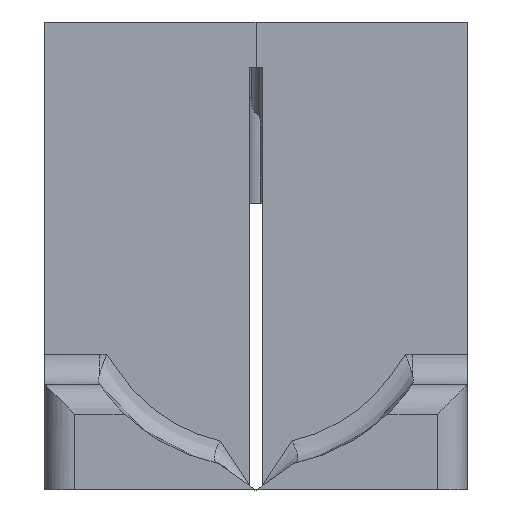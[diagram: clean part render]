
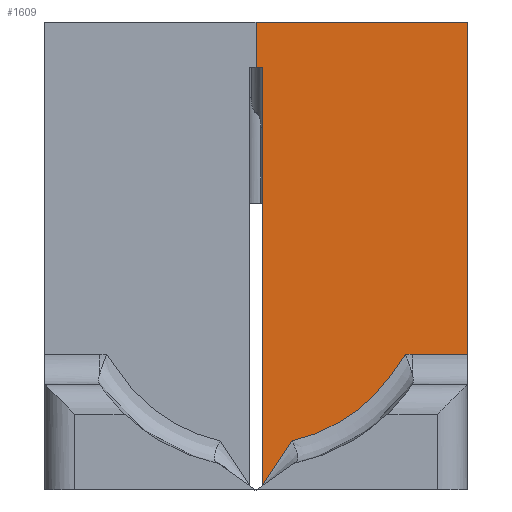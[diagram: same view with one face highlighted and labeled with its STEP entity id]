
A CAD part, left-side view. The second image highlights one B-rep face of the part: STEP entity #1609.
In plain terms, the highlighted planar face has unit normal (-1, 0, 0).
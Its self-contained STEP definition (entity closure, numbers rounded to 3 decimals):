
#33 = LINE ( 'NONE', #3024, #215 ) ;
#97 = CARTESIAN_POINT ( 'NONE',  ( -35., -3.163, -27.536 ) ) ;
#106 = VECTOR ( 'NONE', #3444, 1000. ) ;
#121 = CARTESIAN_POINT ( 'NONE',  ( -35., -8.42, -24.078 ) ) ;
#168 = CARTESIAN_POINT ( 'NONE',  ( -35., -9.897, -22. ) ) ;
#215 = VECTOR ( 'NONE', #2446, 1000. ) ;
#266 = VECTOR ( 'NONE', #1642, 1000. ) ;
#267 = CARTESIAN_POINT ( 'NONE',  ( -35., -0.4, -30.72 ) ) ;
#326 = ORIENTED_EDGE ( 'NONE', *, *, #2898, .T. ) ;
#342 = VERTEX_POINT ( 'NONE', #457 ) ;
#386 = VERTEX_POINT ( 'NONE', #4176 ) ;
#426 = CARTESIAN_POINT ( 'NONE',  ( -35., -9.172, -23.073 ) ) ;
#457 = CARTESIAN_POINT ( 'NONE',  ( -35., -0.4, -3. ) ) ;
#549 = CARTESIAN_POINT ( 'NONE',  ( -35., 0., -15.36 ) ) ;
#555 = DIRECTION ( 'NONE',  ( 0., 0., 1. ) ) ;
#636 = CARTESIAN_POINT ( 'NONE',  ( -35., -3.454, -27.444 ) ) ;
#658 = CARTESIAN_POINT ( 'NONE',  ( -35., -8.615, -23.841 ) ) ;
#857 = VECTOR ( 'NONE', #3285, 1000. ) ;
#972 = CARTESIAN_POINT ( 'NONE',  ( -35., -9.658, -22.356 ) ) ;
#998 = VERTEX_POINT ( 'NONE', #267 ) ;
#1003 = VERTEX_POINT ( 'NONE', #1267 ) ;
#1041 = DIRECTION ( 'NONE',  ( 0., -1., 0. ) ) ;
#1167 = CARTESIAN_POINT ( 'NONE',  ( -35., -4.301, -27.132 ) ) ;
#1195 = CARTESIAN_POINT ( 'NONE',  ( -35., -8.775, -23.634 ) ) ;
#1242 = CARTESIAN_POINT ( 'NONE',  ( -35., 0., -3. ) ) ;
#1249 = EDGE_CURVE ( 'NONE', #342, #998, #1517, .T. ) ;
#1261 = CARTESIAN_POINT ( 'NONE',  ( -35., -14., -30.72 ) ) ;
#1267 = CARTESIAN_POINT ( 'NONE',  ( -35., -14., -22. ) ) ;
#1393 = EDGE_CURVE ( 'NONE', #3005, #1003, #6241, .T. ) ;
#1517 = LINE ( 'NONE', #4639, #106 ) ;
#1609 = ADVANCED_FACE ( 'NONE', ( #3243 ), #2223, .T. ) ;
#1642 = DIRECTION ( 'NONE',  ( 0., -1., 0. ) ) ;
#1698 = CARTESIAN_POINT ( 'NONE',  ( -35., -6.082, -26.201 ) ) ;
#1723 = CARTESIAN_POINT ( 'NONE',  ( -35., -8.812, -23.585 ) ) ;
#2055 = EDGE_CURVE ( 'NONE', #5046, #4791, #4306, .T. ) ;
#2174 = EDGE_CURVE ( 'NONE', #342, #2991, #4867, .T. ) ;
#2202 = CARTESIAN_POINT ( 'NONE',  ( -35., -2.815, -27.634 ) ) ;
#2223 = PLANE ( 'NONE',  #4177 ) ;
#2226 = CARTESIAN_POINT ( 'NONE',  ( -35., -7.496, -25.068 ) ) ;
#2231 = CARTESIAN_POINT ( 'NONE',  ( -35., -0.4, -30.72 ) ) ;
#2253 = CARTESIAN_POINT ( 'NONE',  ( -35., -8.823, -23.569 ) ) ;
#2446 = DIRECTION ( 'NONE',  ( 0., 1., 0. ) ) ;
#2720 = CARTESIAN_POINT ( 'NONE',  ( -35., -2.929, -27.603 ) ) ;
#2740 = CARTESIAN_POINT ( 'NONE',  ( -35., -0.2, -3. ) ) ;
#2749 = CARTESIAN_POINT ( 'NONE',  ( -35., -8.224, -24.306 ) ) ;
#2779 = CARTESIAN_POINT ( 'NONE',  ( -35., -8.95, -23.395 ) ) ;
#2835 = ORIENTED_EDGE ( 'NONE', *, *, #5249, .T. ) ;
#2889 = B_SPLINE_CURVE_WITH_KNOTS ( 'NONE', 3,
 ( #2231, #5929, #6432, #3350 ),
 .UNSPECIFIED., .F., .F.,
 ( 4, 4 ),
 ( 0., 1. ),
 .UNSPECIFIED. ) ;
#2898 = EDGE_CURVE ( 'NONE', #998, #386, #2889, .T. ) ;
#2915 = ORIENTED_EDGE ( 'NONE', *, *, #3425, .T. ) ;
#2967 = VECTOR ( 'NONE', #4751, 1000. ) ;
#2991 = VERTEX_POINT ( 'NONE', #1242 ) ;
#3005 = VERTEX_POINT ( 'NONE', #5482 ) ;
#3024 = CARTESIAN_POINT ( 'NONE',  ( -35., -9.897, -22. ) ) ;
#3071 = CARTESIAN_POINT ( 'NONE',  ( -35., -9.146, -23.112 ) ) ;
#3193 = CARTESIAN_POINT ( 'NONE',  ( -35., -14., -15.36 ) ) ;
#3243 = FACE_OUTER_BOUND ( 'NONE', #6215, .T. ) ;
#3267 = CARTESIAN_POINT ( 'NONE',  ( -35., -3.068, -27.564 ) ) ;
#3285 = DIRECTION ( 'NONE',  ( 0., 1., 0. ) ) ;
#3294 = CARTESIAN_POINT ( 'NONE',  ( -35., -8.388, -24.116 ) ) ;
#3350 = CARTESIAN_POINT ( 'NONE',  ( -35., -2.393, -27.736 ) ) ;
#3425 = EDGE_CURVE ( 'NONE', #5046, #2991, #4364, .T. ) ;
#3444 = DIRECTION ( 'NONE',  ( 0., 0., -1. ) ) ;
#3506 = ORIENTED_EDGE ( 'NONE', *, *, #3860, .T. ) ;
#3582 = ORIENTED_EDGE ( 'NONE', *, *, #5507, .F. ) ;
#3603 = CARTESIAN_POINT ( 'NONE',  ( -35., -9.167, -23.08 ) ) ;
#3775 = CARTESIAN_POINT ( 'NONE',  ( -35., -2.498, -27.712 ) ) ;
#3796 = DIRECTION ( 'NONE',  ( 0., 0., 1. ) ) ;
#3798 = CARTESIAN_POINT ( 'NONE',  ( -35., -3.355, -27.476 ) ) ;
#3828 = CARTESIAN_POINT ( 'NONE',  ( -35., -8.519, -23.959 ) ) ;
#3860 = EDGE_CURVE ( 'NONE', #386, #6080, #6113, .T. ) ;
#4125 = CARTESIAN_POINT ( 'NONE',  ( -35., -9.417, -22.712 ) ) ;
#4176 = CARTESIAN_POINT ( 'NONE',  ( -35., -2.393, -27.736 ) ) ;
#4177 = AXIS2_PLACEMENT_3D ( 'NONE', #1261, #5358, #3796 ) ;
#4214 = ORIENTED_EDGE ( 'NONE', *, *, #1249, .T. ) ;
#4295 = CARTESIAN_POINT ( 'NONE',  ( -35., -2.393, -27.736 ) ) ;
#4306 = LINE ( 'NONE', #4778, #266 ) ;
#4326 = CARTESIAN_POINT ( 'NONE',  ( -35., -3.93, -27.282 ) ) ;
#4352 = CARTESIAN_POINT ( 'NONE',  ( -35., -8.723, -23.703 ) ) ;
#4364 = LINE ( 'NONE', #549, #2967 ) ;
#4639 = CARTESIAN_POINT ( 'NONE',  ( -35., -0.4, -15.36 ) ) ;
#4647 = CARTESIAN_POINT ( 'NONE',  ( -35., -9.897, -22. ) ) ;
#4730 = VECTOR ( 'NONE', #555, 1000. ) ;
#4751 = DIRECTION ( 'NONE',  ( 0., 0., -1. ) ) ;
#4778 = CARTESIAN_POINT ( 'NONE',  ( -35., -0.061, 0. ) ) ;
#4791 = VERTEX_POINT ( 'NONE', #6639 ) ;
#4814 = ORIENTED_EDGE ( 'NONE', *, *, #2055, .F. ) ;
#4832 = CARTESIAN_POINT ( 'NONE',  ( -35., -5.397, -26.619 ) ) ;
#4857 = CARTESIAN_POINT ( 'NONE',  ( -35., -8.801, -23.599 ) ) ;
#4867 = LINE ( 'NONE', #2740, #857 ) ;
#4901 = LINE ( 'NONE', #3193, #4730 ) ;
#4965 = ORIENTED_EDGE ( 'NONE', *, *, #1393, .T. ) ;
#5046 = VERTEX_POINT ( 'NONE', #5310 ) ;
#5249 = EDGE_CURVE ( 'NONE', #1003, #4791, #4901, .T. ) ;
#5310 = CARTESIAN_POINT ( 'NONE',  ( -35., 0., 0. ) ) ;
#5335 = CARTESIAN_POINT ( 'NONE',  ( -35., -2.65, -27.676 ) ) ;
#5358 = DIRECTION ( 'NONE',  ( -1., 0., 0. ) ) ;
#5363 = CARTESIAN_POINT ( 'NONE',  ( -35., -7.04, -25.462 ) ) ;
#5379 = CARTESIAN_POINT ( 'NONE',  ( -35., -8.819, -23.575 ) ) ;
#5482 = CARTESIAN_POINT ( 'NONE',  ( -35., -10.356, -22. ) ) ;
#5507 = EDGE_CURVE ( 'NONE', #3005, #6080, #33, .T. ) ;
#5843 = CARTESIAN_POINT ( 'NONE',  ( -35., -2.884, -27.615 ) ) ;
#5874 = CARTESIAN_POINT ( 'NONE',  ( -35., -7.988, -24.567 ) ) ;
#5897 = CARTESIAN_POINT ( 'NONE',  ( -35., -8.872, -23.503 ) ) ;
#5929 = CARTESIAN_POINT ( 'NONE',  ( -35., -1.064, -29.725 ) ) ;
#6080 = VERTEX_POINT ( 'NONE', #168 ) ;
#6086 = VECTOR ( 'NONE', #1041, 1000. ) ;
#6113 = B_SPLINE_CURVE_WITH_KNOTS ( 'NONE', 3,
 ( #4295, #3775, #5335, #2202, #5843, #2720, #6357, #3267, #97, #3798, #636, #4326, #1167, #4832, #1698, #5363, #2226, #5874, #2749, #6379, #3294, #121, #3828, #658, #4352, #1195, #4857, #1723, #5379, #2253, #5897, #2779, #6407, #6167, #3071, #6686, #3603, #426, #4125, #972, #4647 ),
 .UNSPECIFIED., .F., .F.,
 ( 4, 1, 1, 2, 2, 2, 2, 2, 2, 1, 1, 1, 2, 2, 1, 1, 1, 1, 2, 2, 1, 1, 1, 1, 2, 2, 4 ),
 ( 0., 0.031, 0.047, 0.055, 0.063, 0.094, 0.125, 0.25, 0.5, 0.625, 0.688, 0.719, 0.734, 0.75, 0.781, 0.797, 0.805, 0.809, 0.811, 0.813, 0.844, 0.859, 0.867, 0.871, 0.873, 0.875, 1. ),
 .UNSPECIFIED. ) ;
#6167 = CARTESIAN_POINT ( 'NONE',  ( -35., -9.116, -23.156 ) ) ;
#6215 = EDGE_LOOP ( 'NONE', ( #6537, #4214, #326, #3506, #3582, #4965, #2835, #4814, #2915 ) ) ;
#6241 = LINE ( 'NONE', #6260, #6086 ) ;
#6260 = CARTESIAN_POINT ( 'NONE',  ( -35., -7., -22. ) ) ;
#6357 = CARTESIAN_POINT ( 'NONE',  ( -35., -2.949, -27.597 ) ) ;
#6379 = CARTESIAN_POINT ( 'NONE',  ( -35., -8.323, -24.192 ) ) ;
#6407 = CARTESIAN_POINT ( 'NONE',  ( -35., -9.058, -23.24 ) ) ;
#6432 = CARTESIAN_POINT ( 'NONE',  ( -35., -1.728, -28.73 ) ) ;
#6537 = ORIENTED_EDGE ( 'NONE', *, *, #2174, .F. ) ;
#6639 = CARTESIAN_POINT ( 'NONE',  ( -35., -14., 0. ) ) ;
#6686 = CARTESIAN_POINT ( 'NONE',  ( -35., -9.159, -23.093 ) ) ;
